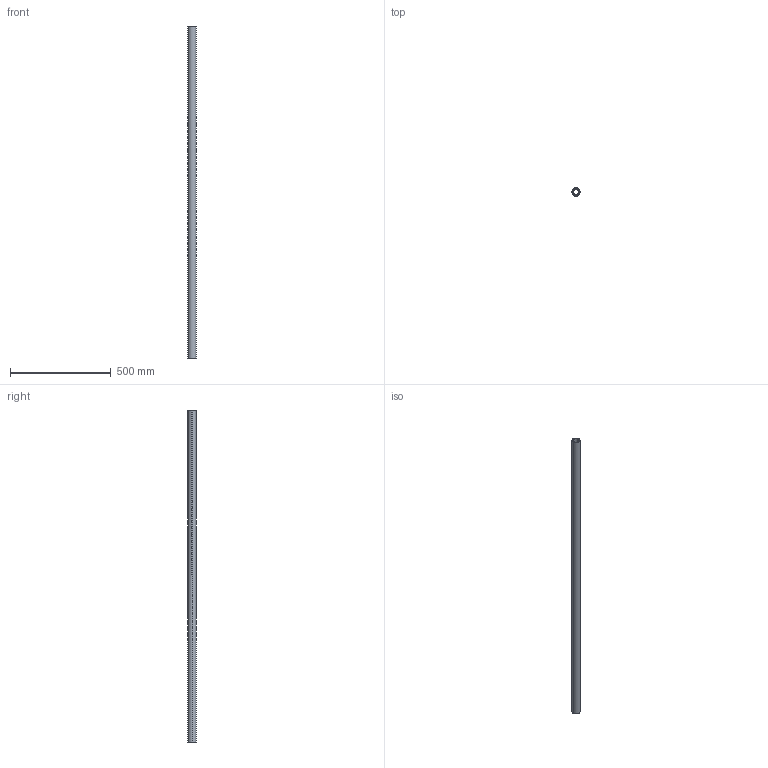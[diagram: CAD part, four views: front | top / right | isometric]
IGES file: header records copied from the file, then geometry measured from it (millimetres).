
Start section: SolidWorks IGES file using analytic representation for surfaces
Global section: file name: C:\Users\IanO\Desktop\L1771_v2\L1771.40_v2\L1771.40_v2_20230705_IGES\L1771.40-1650.igs; native system: SolidWorks 2019; preprocessor: SolidWorks 2019; author: IanO; date: 230705.160735; units: millimetre
Bounding box: 40 x 40 x 1650 mm (x, y, z)
Surface area: 353768.5 mm2 (no closed solid volume)
Topology: 0 solids, 0 shells, 6 faces, 272 edges, 272 vertices
Faces by surface type: revolution 4, bspline 2
